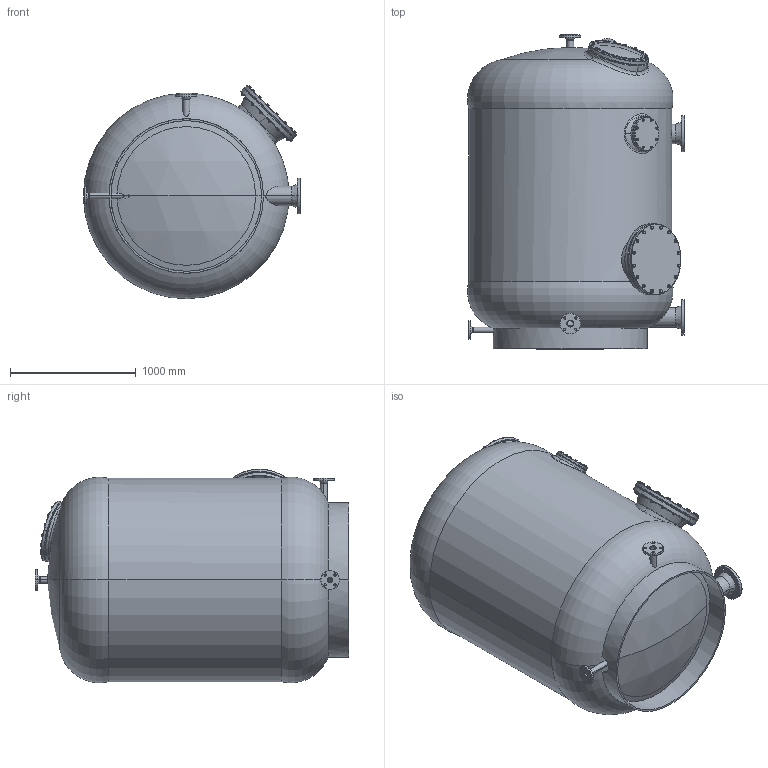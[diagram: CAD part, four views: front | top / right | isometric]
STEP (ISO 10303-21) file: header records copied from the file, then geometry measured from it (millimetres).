
FILE_DESCRIPTION (( 'STEP AP214' ), '1' );
FILE_NAME ('mediterran160c.STEP', '2020-11-03T13:14:08', ( '' ), ( '' ), 'SwSTEP 2.0', 'SolidWorks 2019', '' );
FILE_SCHEMA (( 'AUTOMOTIVE_DESIGN' ));
Length unit declared in the file: millimetre
Products named in the file (1): mediterran160c
Bounding box: 1728.47 x 2500.02 x 1699.93 mm (x, y, z)
Surface area: 31440939.2 mm2 (no closed solid volume)
Topology: 0 solids, 149 shells, 2178 faces, 4868 edges, 2976 vertices
Faces by surface type: cone 687, cylinder 687, plane 662, torus 115, sphere 17, bspline 10
Entity records: 106283 total; most frequent: CARTESIAN_POINT 33323, DIRECTION 10145, ORIENTED_EDGE 9482, EDGE_CURVE 4789, AXIS2_PLACEMENT_3D 4335, VERTEX_POINT 2958, EDGE_LOOP 2607, UNCERTAINTY_MEASURE_WITH_UNIT 2298
